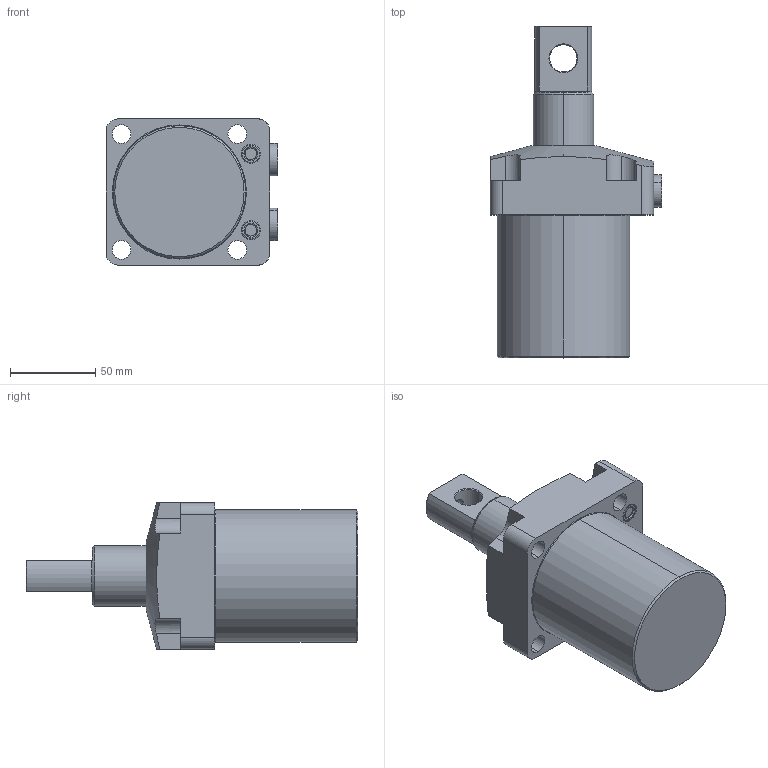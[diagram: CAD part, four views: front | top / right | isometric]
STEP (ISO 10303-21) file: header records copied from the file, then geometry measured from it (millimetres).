
FILE_DESCRIPTION(/* description */ (''),/* implementation_level */ '2;1');
FILE_NAME(/* name */ 'TRC16-P.stp',/* time_stamp */ '2025-01-04T09:18:34+08:00',/* author */ (''),/* organization */ (''),/* preprocessor_version */ 'ST-DEVELOPER v16.7',/* originating_system */ 'SIEMENS PLM Software NX 12.0',/* authorisation */ '');
FILE_SCHEMA (('AUTOMOTIVE_DESIGN { 1 0 10303 214 3 1 1 1 }'));
Length unit declared in the file: millimetre
Products named in the file (4): TRC16-P-03; TRC16-P-02; TRC16-P-01; TRC16-P_stp
Assembly tree (4 placements, depth 2):
  TRC16-P_stp
    TRC16-P-01
    TRC16-P-02
    TRC16-P-03  x2
Bounding box: 100.8 x 195 x 86 mm (x, y, z)
Volume: 698322.1 mm3; surface area: 68969 mm2
Topology: 4 solids, 6 shells, 171 faces, 397 edges, 250 vertices
Faces by surface type: cylinder 67, plane 56, cone 26, torus 22
Entity records: 4601 total; most frequent: CARTESIAN_POINT 960, DIRECTION 797, ORIENTED_EDGE 702, EDGE_CURVE 351, AXIS2_PLACEMENT_3D 329, VERTEX_POINT 222, EDGE_LOOP 175, CIRCLE 175
